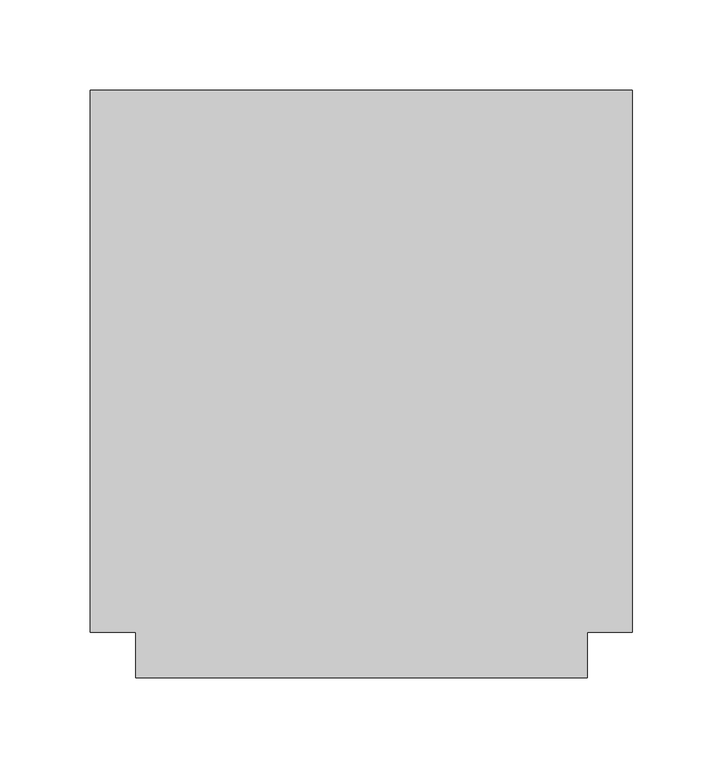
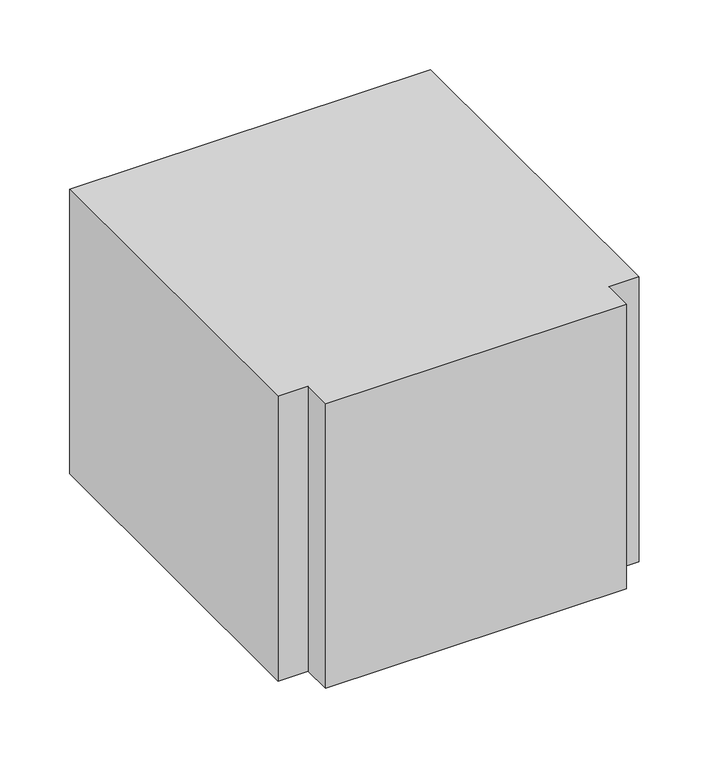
"""IFC4 building model written with IfcOpenShell, lengths in millimetres: duct fitting geometry, M_Te rectangular : Estándar."""

from ifc_helpers import new_model, si_unit, frame, origin, place, context, project, spatial, polyline, outline, extrude, source, transform, mapped, element, save


def duct_fitting_c7f7ae27(model_context):
    return source(origin(), model_context, "Body", "SweptSolid", [
        extrude(outline(polyline([(-150.0, -150.0), (-150.0, 150.0), (150.0, 150.0), (150.0, -150.0), (125.0, -150.0), (125.0, -175.0), (-125.0, -175.0), (-125.0, -150.0), (-150.0, -150.0)])), frame((0.0, 0.0, -125.0), z_axis=(0.0, 0.0, 1.0), x_axis=(1.0, 0.0, 0.0)), (0.0, 0.0, 1.0), 250.0),
    ])


if __name__ == "__main__":
    model = new_model("IFC4")
    model_context = context("Model", 3, world=origin())
    ifc_project = project(units=[si_unit("LENGTHUNIT", "METRE", prefix="MILLI")], contexts=[model_context])
    site = spatial("IfcSite", under=ifc_project)
    building = spatial("IfcBuilding", under=site)
    placement = place(None, origin())
    duct_fitting_shape = duct_fitting_c7f7ae27(model_context)
    element("IfcDuctFitting", 1, ObjectType="M_Te rectangular : Estándar", at=placement, inside=building, context=model_context, shape_type="MappedRepresentation", body=[
        mapped(duct_fitting_shape, transform((0.0, 0.0, 0.0), x_axis=(1.0, 0.0, 0.0), y_axis=(0.0, 1.0, 0.0), z_axis=(0.0, 0.0, 1.0))),
    ])
    save(model, "model.ifc")
